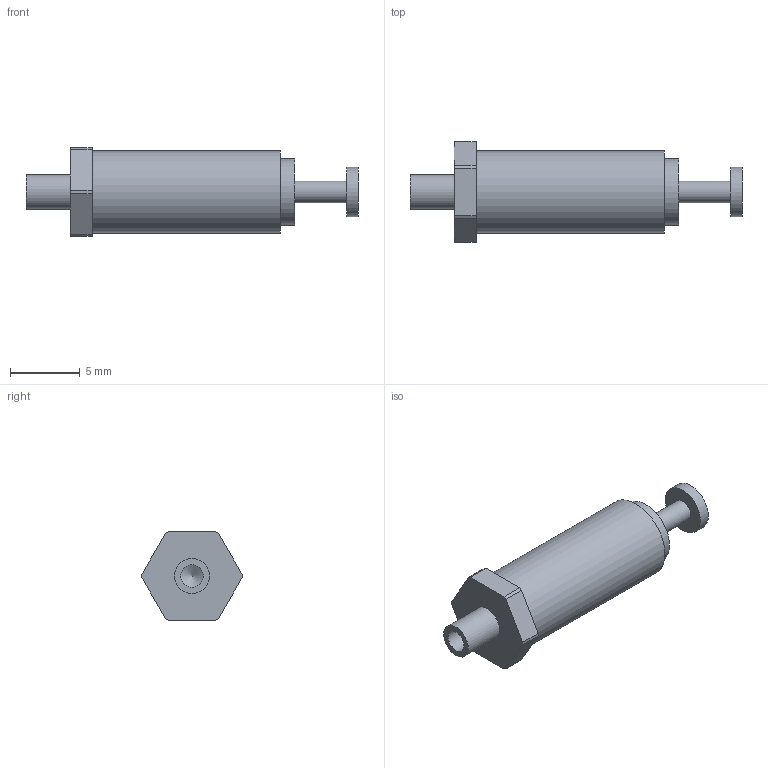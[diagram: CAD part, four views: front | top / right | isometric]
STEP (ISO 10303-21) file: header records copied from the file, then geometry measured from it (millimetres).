
FILE_DESCRIPTION(/* description */ (''),/* implementation_level */ '2;1');
FILE_NAME(/* name */ '\\Snap1\dwgs\Customer 3D Models\572\572-4842-02 Customer model.stp',/* time_stamp */ '2017-01-11T08:30:48+00:00',/* author */ ('paulk'),/* organization */ (''),/* preprocessor_version */ 'ST-DEVELOPER v15.2',/* originating_system */ 'Autodesk Inventor 2014',/* authorisation */ '');
FILE_SCHEMA (('CONFIG_CONTROL_DESIGN'));
Length unit declared in the file: millimetre
Products named in the file (1): 572-4842-02 Customer model
Bounding box: 23.83 x 7.2 x 6.35 mm (x, y, z)
Volume: 468.5 mm3; surface area: 447.1 mm2
Topology: 1 solids, 1 shells, 26 faces, 56 edges, 37 vertices
Faces by surface type: plane 13, cylinder 12, cone 1
Full cylindrical faces by diameter (mm): 1.575 x1, 1.613 x1, 2.489 x1, 3.556 x1, 4.775 x1, 5.893 x1
Entity records: 747 total; most frequent: DIRECTION 126, CARTESIAN_POINT 111, ORIENTED_EDGE 96, AXIS2_PLACEMENT_3D 51, EDGE_CURVE 48, EDGE_LOOP 38, VERTEX_POINT 36, STYLED_ITEM 27
